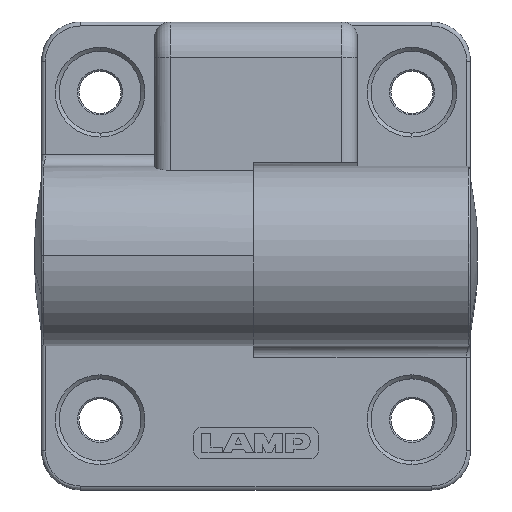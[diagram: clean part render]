
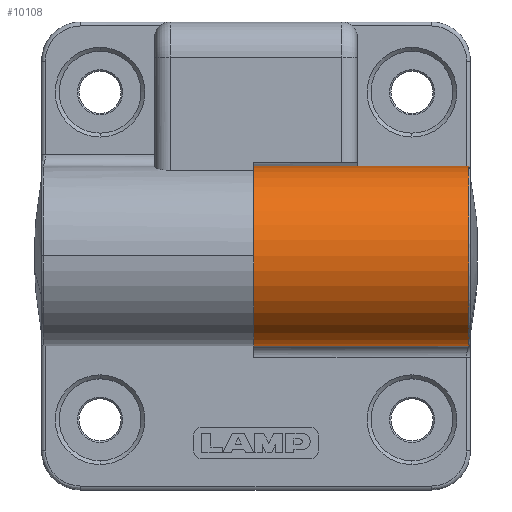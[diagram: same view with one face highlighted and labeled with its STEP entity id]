
A CAD part, top view. The second image highlights one B-rep face of the part: STEP entity #10108.
In plain terms, the highlighted cylindrical face has radius 11.5 mm (diameter 23 mm), a partial arc.
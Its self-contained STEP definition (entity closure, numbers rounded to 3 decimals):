
#538 = DIRECTION ( 'NONE',  ( 0., 1., 0. ) ) ;
#675 = CARTESIAN_POINT ( 'NONE',  ( -11.5, -27.8, 4.5 ) ) ;
#975 = DIRECTION ( 'NONE',  ( -1., 0., 0. ) ) ;
#1033 = CIRCLE ( 'NONE', #2538, 11.5 ) ;
#1086 = EDGE_CURVE ( 'NONE', #5168, #10721, #5897, .T. ) ;
#1549 = EDGE_CURVE ( 'NONE', #4961, #10721, #4047, .T. ) ;
#1729 = CARTESIAN_POINT ( 'NONE',  ( -11.5, -27.8, 4.5 ) ) ;
#2079 = CARTESIAN_POINT ( 'NONE',  ( 11.5, -27.8, 4.5 ) ) ;
#2538 = AXIS2_PLACEMENT_3D ( 'NONE', #5944, #538, #6893 ) ;
#2637 = DIRECTION ( 'NONE',  ( 0., 1., 0. ) ) ;
#2922 = ORIENTED_EDGE ( 'NONE', *, *, #9542, .T. ) ;
#3243 = AXIS2_PLACEMENT_3D ( 'NONE', #9180, #3722, #10081 ) ;
#3668 = CARTESIAN_POINT ( 'NONE',  ( 0., -27.8, 4.5 ) ) ;
#3722 = DIRECTION ( 'NONE',  ( 0., -1., 0. ) ) ;
#4047 = LINE ( 'NONE', #1729, #6201 ) ;
#4167 = VERTEX_POINT ( 'NONE', #2079 ) ;
#4836 = VECTOR ( 'NONE', #5591, 1000. ) ;
#4961 = VERTEX_POINT ( 'NONE', #675 ) ;
#5168 = VERTEX_POINT ( 'NONE', #7316 ) ;
#5591 = DIRECTION ( 'NONE',  ( 0., 1., 0. ) ) ;
#5897 = CIRCLE ( 'NONE', #3243, 11.5 ) ;
#5917 = ORIENTED_EDGE ( 'NONE', *, *, #9216, .T. ) ;
#5944 = CARTESIAN_POINT ( 'NONE',  ( 0., -27.8, 4.5 ) ) ;
#6201 = VECTOR ( 'NONE', #2637, 1000. ) ;
#6299 = ORIENTED_EDGE ( 'NONE', *, *, #1549, .F. ) ;
#6416 = FACE_OUTER_BOUND ( 'NONE', #10767, .T. ) ;
#6653 = CARTESIAN_POINT ( 'NONE',  ( -11.5, -0.2, 4.5 ) ) ;
#6893 = DIRECTION ( 'NONE',  ( -1., 0., 0. ) ) ;
#7290 = LINE ( 'NONE', #10093, #4836 ) ;
#7316 = CARTESIAN_POINT ( 'NONE',  ( 11.5, -0.2, 4.5 ) ) ;
#7351 = DIRECTION ( 'NONE',  ( 0., 1., 0. ) ) ;
#7367 = AXIS2_PLACEMENT_3D ( 'NONE', #3668, #7351, #975 ) ;
#8520 = CYLINDRICAL_SURFACE ( 'NONE', #7367, 11.5 ) ;
#9180 = CARTESIAN_POINT ( 'NONE',  ( 0., -0.2, 4.5 ) ) ;
#9216 = EDGE_CURVE ( 'NONE', #4961, #4167, #1033, .T. ) ;
#9542 = EDGE_CURVE ( 'NONE', #4167, #5168, #7290, .T. ) ;
#10081 = DIRECTION ( 'NONE',  ( -1., 0., 0. ) ) ;
#10093 = CARTESIAN_POINT ( 'NONE',  ( 11.5, -27.8, 4.5 ) ) ;
#10108 = ADVANCED_FACE ( 'NONE', ( #6416 ), #8520, .T. ) ;
#10721 = VERTEX_POINT ( 'NONE', #6653 ) ;
#10767 = EDGE_LOOP ( 'NONE', ( #6299, #5917, #2922, #11638 ) ) ;
#11638 = ORIENTED_EDGE ( 'NONE', *, *, #1086, .T. ) ;
